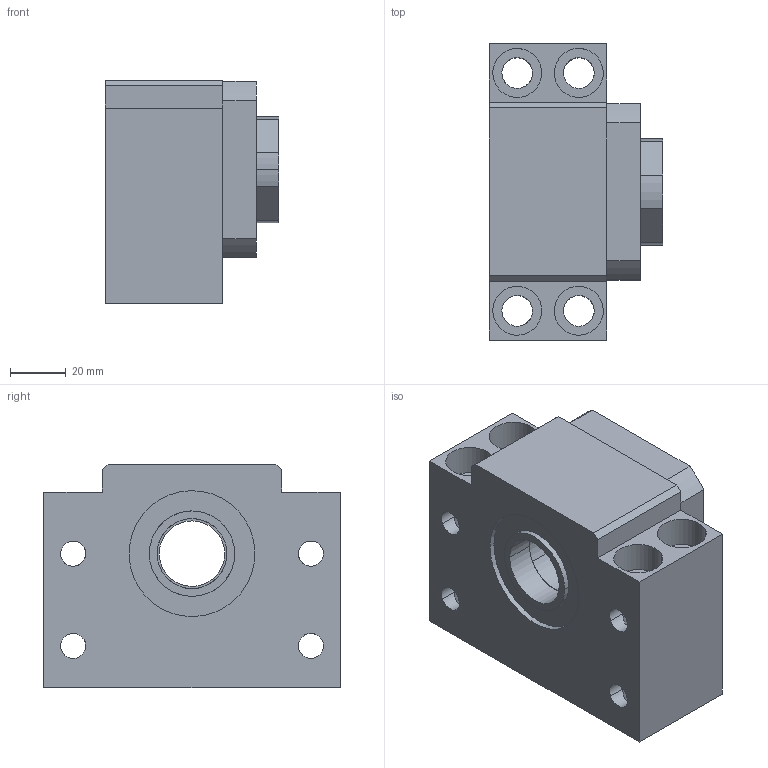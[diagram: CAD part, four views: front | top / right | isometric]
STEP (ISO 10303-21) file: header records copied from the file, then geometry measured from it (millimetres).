
FILE_DESCRIPTION(('CATIA V5 STEP Exchange'),'2;1');
FILE_NAME('D:\서포트 완성도면\BK\BK25.stp','2014-02-10T10:25:58+00:00',('none'),('none'),'CATIA Version 5 Release 18 GA (IN-10)','CATIA V5 STEP AP203','none');
FILE_SCHEMA(('CONFIG_CONTROL_DESIGN'));
Length unit declared in the file: millimetre
Products named in the file (1): BK25
Assembly tree (4 placements, depth 2):
  BK25
    #56
    #3343  x2
    #3530
Bounding box: 62 x 106 x 80 mm (x, y, z)
Volume: 321062 mm3; surface area: 57297.2 mm2
Topology: 4 solids, 4 shells, 105 faces, 314 edges, 210 vertices
Faces by surface type: cylinder 70, plane 35
Entity records: 3927 total; most frequent: CARTESIAN_POINT 1348, ORIENTED_EDGE 604, DIRECTION 358, EDGE_CURVE 302, VERTEX_POINT 202, AXIS2_PLACEMENT_3D 160, VECTOR 138, LINE 138
